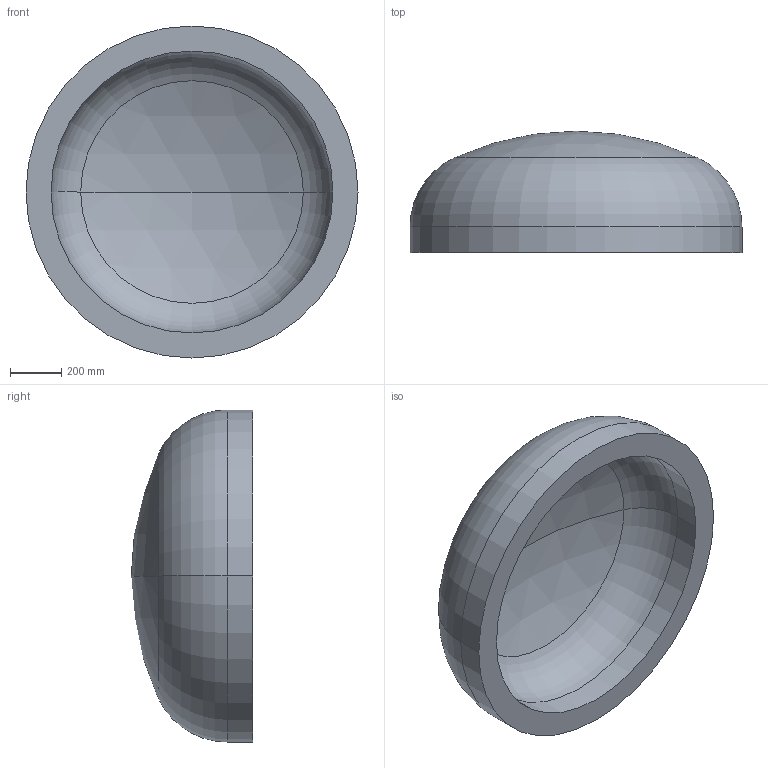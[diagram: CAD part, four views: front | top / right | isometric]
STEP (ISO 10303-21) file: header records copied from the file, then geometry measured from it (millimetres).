
FILE_DESCRIPTION (( 'STEP AP203' ), '1' );
FILE_NAME ('DIN 28013 Korbbogenform_-_Boden DIN 28013 - 1300 x 100 - I - s=98.step', '2016-07-01T10:01:39', ( '' ), ( '' ), 'SwSTEP 2.0', 'SolidWorks 2013', '' );
FILE_SCHEMA (( 'CONFIG_CONTROL_DESIGN' ));
Length unit declared in the file: millimetre
Products named in the file (1): DIN 28013 Korbbogenform_-_Boden DIN 28013 - 1300 x 100 - I - s=98
Bounding box: 1300 x 475.31 x 1300 mm (x, y, z)
Volume: 200809445.2 mm3; surface area: 4488332.7 mm2
Topology: 1 solids, 1 shells, 13 faces, 24 edges, 14 vertices
Faces by surface type: torus 4, cylinder 4, sphere 4, plane 1
Entity records: 407 total; most frequent: DIRECTION 72, CARTESIAN_POINT 52, ORIENTED_EDGE 48, AXIS2_PLACEMENT_3D 34, EDGE_CURVE 24, CIRCLE 20, EDGE_LOOP 14, VERTEX_POINT 14
